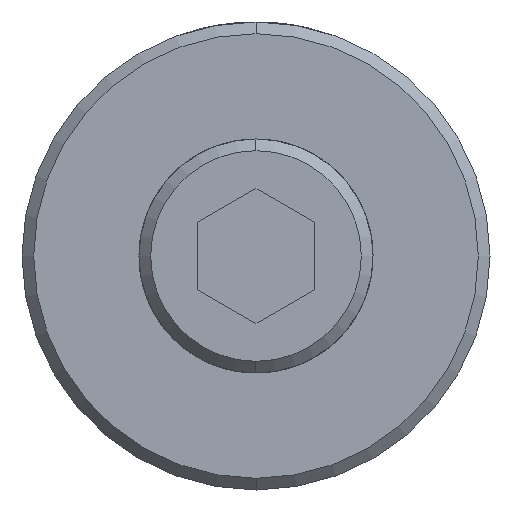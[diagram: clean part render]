
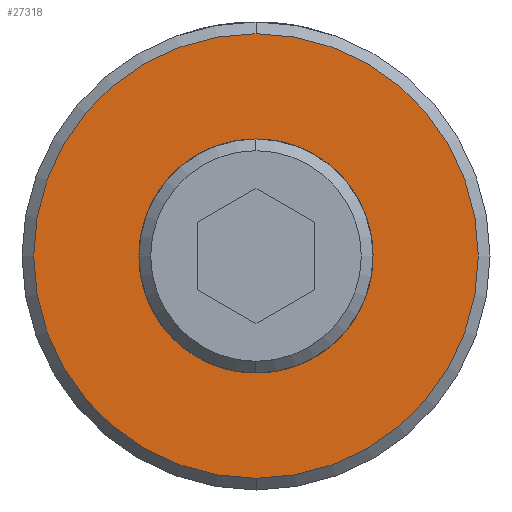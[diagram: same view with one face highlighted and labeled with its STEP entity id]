
A CAD part, left-side view. The second image highlights one B-rep face of the part: STEP entity #27318.
In plain terms, the highlighted planar face has unit normal (-1, 0, 0) as drawn and (0, 0, 1) by its records, which use the part's own axes.
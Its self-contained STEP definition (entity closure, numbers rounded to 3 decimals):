
#22477=CARTESIAN_POINT('',(0.,0.,0.));
#22478=DIRECTION('',(0.,0.,-1.));
#22479=DIRECTION('',(-1.,0.,0.));
#22480=AXIS2_PLACEMENT_3D('',#22477,#22478,#22479);
#22482=CARTESIAN_POINT('',(0.,0.,0.));
#22483=DIRECTION('',(0.,0.,-1.));
#22484=DIRECTION('',(1.,0.,0.));
#22485=AXIS2_PLACEMENT_3D('',#22482,#22483,#22484);
#22487=CARTESIAN_POINT('',(-0.998,-2.562,0.));
#22488=CARTESIAN_POINT('',(-1.332,-2.451,0.));
#22489=CARTESIAN_POINT('',(-1.91,-2.126,0.));
#22490=CARTESIAN_POINT('',(-2.57,-1.358,0.));
#22491=CARTESIAN_POINT('',(-2.906,-0.45,0.));
#22492=CARTESIAN_POINT('',(-2.943,0.39,0.));
#22493=CARTESIAN_POINT('',(-2.778,1.125,0.));
#22494=CARTESIAN_POINT('',(-2.574,1.538,0.));
#22495=CARTESIAN_POINT('',(-2.451,1.73,0.));
#22497=CARTESIAN_POINT('',(0.,0.,0.));
#22498=DIRECTION('',(0.,0.,-1.));
#22499=DIRECTION('',(0.882,-0.472,0.));
#22500=AXIS2_PLACEMENT_3D('',#22497,#22498,#22499);
#22502=CARTESIAN_POINT('',(0.737,2.908,0.));
#22503=CARTESIAN_POINT('',(0.915,2.854,0.));
#22504=CARTESIAN_POINT('',(1.254,2.716,0.));
#22505=CARTESIAN_POINT('',(1.722,2.415,0.));
#22506=CARTESIAN_POINT('',(2.13,2.027,0.));
#22507=CARTESIAN_POINT('',(2.463,1.56,0.));
#22508=CARTESIAN_POINT('',(2.707,1.008,0.));
#22509=CARTESIAN_POINT('',(2.832,0.397,0.));
#22510=CARTESIAN_POINT('',(2.82,-0.213,0.));
#22511=CARTESIAN_POINT('',(2.688,-0.78,0.));
#22512=CARTESIAN_POINT('',(2.525,-1.13,0.));
#22513=CARTESIAN_POINT('',(2.425,-1.297,0.));
#22515=CARTESIAN_POINT('',(-2.451,1.73,0.));
#22516=CARTESIAN_POINT('',(-2.275,1.979,0.));
#22517=CARTESIAN_POINT('',(-1.867,2.405,0.));
#22518=CARTESIAN_POINT('',(-1.051,2.861,0.));
#22519=CARTESIAN_POINT('',(-0.153,3.04,0.));
#22520=CARTESIAN_POINT('',(0.439,2.984,0.));
#22521=CARTESIAN_POINT('',(0.737,2.908,0.));
#26989=CARTESIAN_POINT('',(-5.7,0.,0.));
#26990=CARTESIAN_POINT('',(5.7,0.,0.));
#26991=VERTEX_POINT('',#26989);
#26992=VERTEX_POINT('',#26990);
#27029=VERTEX_POINT('',#22487);
#27030=VERTEX_POINT('',#22495);
#27031=VERTEX_POINT('',#22521);
#27032=VERTEX_POINT('',#22513);
#27297=CARTESIAN_POINT('',(0.,0.,0.));
#27298=DIRECTION('',(0.,0.,1.));
#27299=DIRECTION('',(-1.,0.,0.));
#27300=AXIS2_PLACEMENT_3D('',#27297,#27298,#27299);
#27301=PLANE('',#27300);
#27303=ORIENTED_EDGE('',*,*,#27302,.T.);
#27305=ORIENTED_EDGE('',*,*,#27304,.T.);
#27306=EDGE_LOOP('',(#27303,#27305));
#27307=FACE_OUTER_BOUND('',#27306,.F.);
#27309=ORIENTED_EDGE('',*,*,#27308,.F.);
#27311=ORIENTED_EDGE('',*,*,#27310,.F.);
#27313=ORIENTED_EDGE('',*,*,#27312,.F.);
#27315=ORIENTED_EDGE('',*,*,#27314,.F.);
#27316=EDGE_LOOP('',(#27309,#27311,#27313,#27315));
#27317=FACE_BOUND('',#27316,.F.);
#27318=ADVANCED_FACE('',(#27307,#27317),#27301,.T.);
#22481=CIRCLE('',#22480,5.7);
#22486=CIRCLE('',#22485,5.7);
#22496=B_SPLINE_CURVE_WITH_KNOTS('',3,(#22487,#22488,#22489,#22490,#22491,
#22492,#22493,#22494,#22495),.UNSPECIFIED.,.F.,.F.,(4,1,1,1,1,1,4),(0.,
0.167,0.333,0.5,0.667,0.833,
1.),.UNSPECIFIED.);
#22501=CIRCLE('',#22500,2.75);
#22514=B_SPLINE_CURVE_WITH_KNOTS('',3,(#22502,#22503,#22504,#22505,#22506,
#22507,#22508,#22509,#22510,#22511,#22512,#22513),.UNSPECIFIED.,.F.,.F.,(4,1,1,
1,1,1,1,1,1,4),(0.,0.111,0.222,0.333,
0.444,0.556,0.667,0.778,
0.889,1.),.UNSPECIFIED.);
#22522=B_SPLINE_CURVE_WITH_KNOTS('',3,(#22515,#22516,#22517,#22518,#22519,
#22520,#22521),.UNSPECIFIED.,.F.,.F.,(4,1,1,1,4),(0.,0.25,0.5,0.75,
1.),.UNSPECIFIED.);
#27302=EDGE_CURVE('',#26991,#26992,#22481,.T.);
#27304=EDGE_CURVE('',#26992,#26991,#22486,.T.);
#27308=EDGE_CURVE('',#27029,#27030,#22496,.T.);
#27310=EDGE_CURVE('',#27032,#27029,#22501,.T.);
#27312=EDGE_CURVE('',#27031,#27032,#22514,.T.);
#27314=EDGE_CURVE('',#27030,#27031,#22522,.T.);
